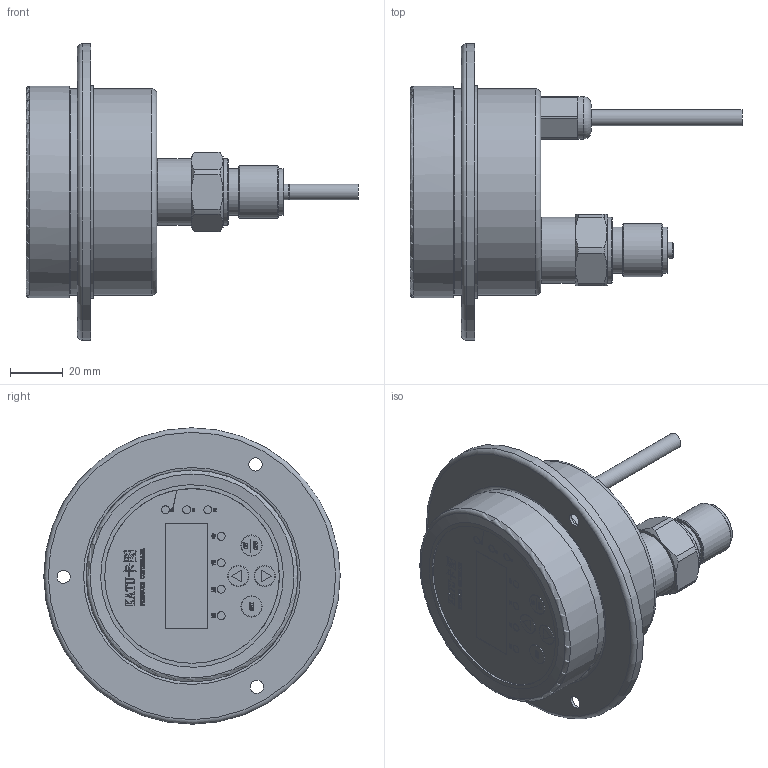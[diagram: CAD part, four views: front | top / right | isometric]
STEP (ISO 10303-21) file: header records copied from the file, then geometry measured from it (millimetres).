
FILE_DESCRIPTION( (''), '2;1');
FILE_NAME( 'PMKB_80mm_axial.step', '2026-09-20T08:13:53+08:00', (''), (''), '', '', '');
FILE_SCHEMA (('AP203_CONFIGURATION_CONTROLLED_3D_DESIGN_OF_MECHANICAL_PARTS_AND_ASSEMBLIES_MIM_LF { 1 0 10303 403 2 1 2}'));
Products named in the file (1): PMKB 80mm_axial
Bounding box: 125.43 x 112 x 112 mm (x, y, z)
Volume: 269208.9 mm3; surface area: 45937 mm2
Topology: 7 solids, 8 shells, 1674 faces, 4610 edges, 3064 vertices
Faces by surface type: plane 1104, bspline 485, cylinder 48, cone 19, torus 18
Full cylindrical faces by diameter (mm): 3 x7, 5 x3, 6 x2, 10 x1, 12 x1, 16 x1, 17.5 x2, 20 x1, 25 x2, 66 x1, 78 x2, 78.5 x1, 80 x1, 80.5 x1, 110 x1, 112 x1
Entity records: 75165 total; most frequent: CARTESIAN_POINT 35847, ORIENTED_EDGE 9112, DIRECTION 6097, EDGE_CURVE 4556, LINE 3403, VECTOR 3403, VERTEX_POINT 3055, EDGE_LOOP 1841
